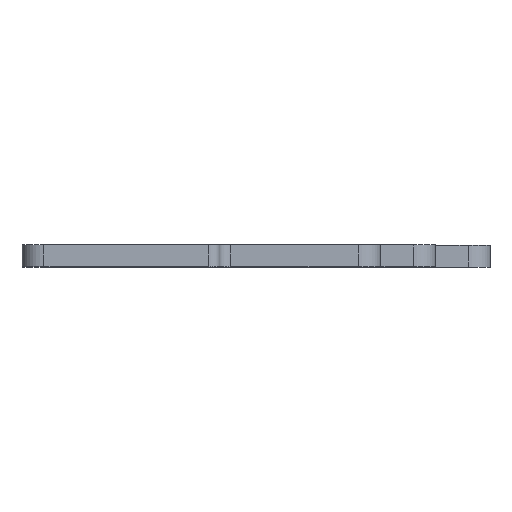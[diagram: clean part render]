
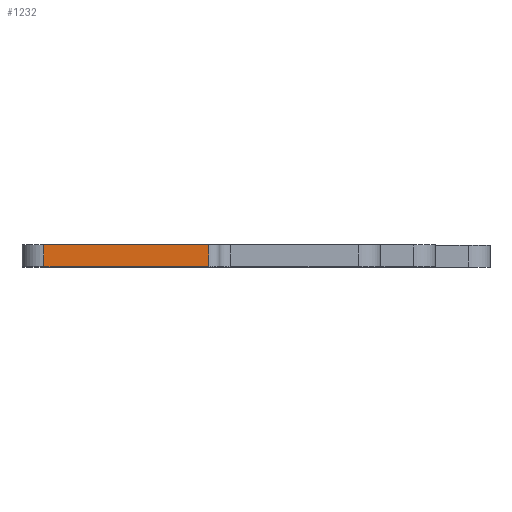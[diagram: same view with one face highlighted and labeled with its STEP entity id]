
A CAD part, top view. The second image highlights one B-rep face of the part: STEP entity #1232.
In plain terms, the highlighted planar face has unit normal (0, 0, 1).
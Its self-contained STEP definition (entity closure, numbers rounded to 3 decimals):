
#84 = DIRECTION ( 'NONE',  ( -1., 0., 0. ) ) ;
#130 = ORIENTED_EDGE ( 'NONE', *, *, #3557, .F. ) ;
#240 = DIRECTION ( 'NONE',  ( 0., -1., 0. ) ) ;
#387 = LINE ( 'NONE', #2113, #4189 ) ;
#452 = ORIENTED_EDGE ( 'NONE', *, *, #4737, .T. ) ;
#524 = CARTESIAN_POINT ( 'NONE',  ( -5., 0., 30. ) ) ;
#557 = VERTEX_POINT ( 'NONE', #2709 ) ;
#637 = EDGE_LOOP ( 'NONE', ( #452, #130, #1311, #1036 ) ) ;
#730 = DIRECTION ( 'NONE',  ( 1., 0., 0. ) ) ;
#774 = VERTEX_POINT ( 'NONE', #2252 ) ;
#796 = CARTESIAN_POINT ( 'NONE',  ( -80., 10., 30. ) ) ;
#1036 = ORIENTED_EDGE ( 'NONE', *, *, #3618, .T. ) ;
#1101 = EDGE_CURVE ( 'NONE', #4526, #557, #4601, .T. ) ;
#1219 = FACE_OUTER_BOUND ( 'NONE', #637, .T. ) ;
#1232 = ADVANCED_FACE ( 'NONE', ( #1219 ), #4616, .F. ) ;
#1260 = AXIS2_PLACEMENT_3D ( 'NONE', #2330, #1603, #84 ) ;
#1311 = ORIENTED_EDGE ( 'NONE', *, *, #1101, .F. ) ;
#1389 = CARTESIAN_POINT ( 'NONE',  ( -5., 0., 30. ) ) ;
#1603 = DIRECTION ( 'NONE',  ( 0., 0., -1. ) ) ;
#1732 = CARTESIAN_POINT ( 'NONE',  ( -80., 10., 30. ) ) ;
#1754 = DIRECTION ( 'NONE',  ( 0., -1., 0. ) ) ;
#2028 = VECTOR ( 'NONE', #1754, 1000. ) ;
#2046 = VECTOR ( 'NONE', #730, 1000. ) ;
#2113 = CARTESIAN_POINT ( 'NONE',  ( -5., 10., 30. ) ) ;
#2252 = CARTESIAN_POINT ( 'NONE',  ( -80., 0., 30. ) ) ;
#2330 = CARTESIAN_POINT ( 'NONE',  ( -5., 10., 30. ) ) ;
#2510 = DIRECTION ( 'NONE',  ( 1., 0., 0. ) ) ;
#2570 = VERTEX_POINT ( 'NONE', #524 ) ;
#2709 = CARTESIAN_POINT ( 'NONE',  ( -5., 10., 30. ) ) ;
#2754 = LINE ( 'NONE', #1389, #3108 ) ;
#2933 = LINE ( 'NONE', #1732, #2028 ) ;
#3108 = VECTOR ( 'NONE', #2510, 1000. ) ;
#3557 = EDGE_CURVE ( 'NONE', #557, #2570, #387, .T. ) ;
#3618 = EDGE_CURVE ( 'NONE', #4526, #774, #2933, .T. ) ;
#3843 = CARTESIAN_POINT ( 'NONE',  ( -5., 10., 30. ) ) ;
#4189 = VECTOR ( 'NONE', #240, 1000. ) ;
#4526 = VERTEX_POINT ( 'NONE', #796 ) ;
#4601 = LINE ( 'NONE', #3843, #2046 ) ;
#4616 = PLANE ( 'NONE',  #1260 ) ;
#4737 = EDGE_CURVE ( 'NONE', #774, #2570, #2754, .T. ) ;
